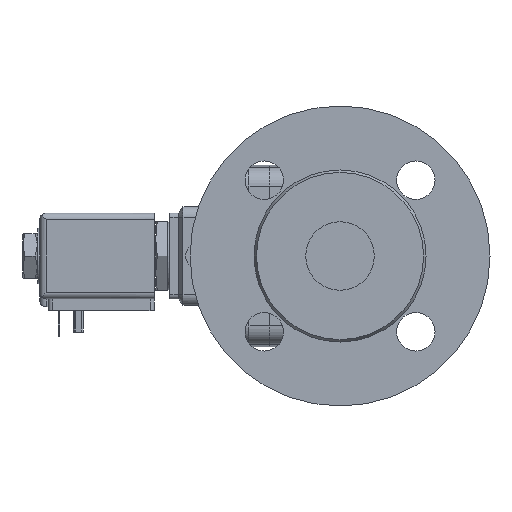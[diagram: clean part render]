
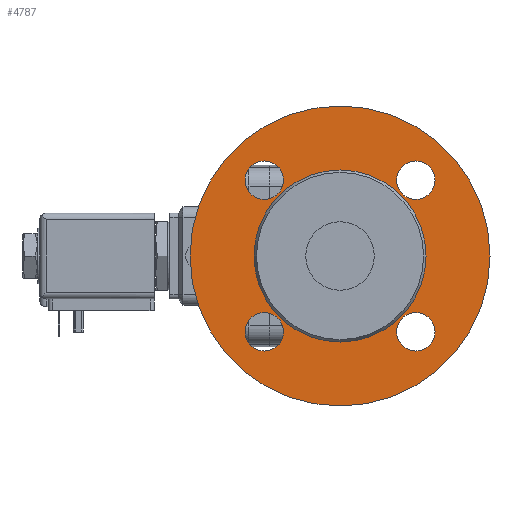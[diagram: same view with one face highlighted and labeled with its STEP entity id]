
A CAD part, left-side view. The second image highlights one B-rep face of the part: STEP entity #4787.
In plain terms, the highlighted planar face has unit normal (-1, 0, 0).
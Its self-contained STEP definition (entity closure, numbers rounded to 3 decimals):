
#1038=PLANE('',#5688);
#1223=CIRCLE('',#5686,40.155);
#1225=CIRCLE('',#5689,70.);
#1226=CIRCLE('',#5690,9.);
#1227=CIRCLE('',#5691,9.);
#1228=CIRCLE('',#5692,9.);
#1229=CIRCLE('',#5693,9.);
#1743=ORIENTED_EDGE('',*,*,#2947,.T.);
#1744=ORIENTED_EDGE('',*,*,#2948,.T.);
#1745=ORIENTED_EDGE('',*,*,#2949,.T.);
#1746=ORIENTED_EDGE('',*,*,#2950,.T.);
#1747=ORIENTED_EDGE('',*,*,#2951,.T.);
#1748=ORIENTED_EDGE('',*,*,#2945,.F.);
#2945=EDGE_CURVE('',#3579,#3579,#1223,.T.);
#2947=EDGE_CURVE('',#3581,#3581,#1225,.T.);
#2948=EDGE_CURVE('',#3582,#3582,#1226,.F.);
#2949=EDGE_CURVE('',#3583,#3583,#1227,.F.);
#2950=EDGE_CURVE('',#3584,#3584,#1228,.F.);
#2951=EDGE_CURVE('',#3585,#3585,#1229,.F.);
#3579=VERTEX_POINT('',#8157);
#3581=VERTEX_POINT('',#8162);
#3582=VERTEX_POINT('',#8164);
#3583=VERTEX_POINT('',#8166);
#3584=VERTEX_POINT('',#8168);
#3585=VERTEX_POINT('',#8170);
#4059=EDGE_LOOP('',(#1743));
#4060=EDGE_LOOP('',(#1744));
#4061=EDGE_LOOP('',(#1745));
#4062=EDGE_LOOP('',(#1746));
#4063=EDGE_LOOP('',(#1747));
#4064=EDGE_LOOP('',(#1748));
#4421=FACE_BOUND('',#4059,.T.);
#4422=FACE_BOUND('',#4060,.T.);
#4423=FACE_BOUND('',#4061,.T.);
#4424=FACE_BOUND('',#4062,.T.);
#4425=FACE_BOUND('',#4063,.T.);
#4426=FACE_BOUND('',#4064,.T.);
#4787=ADVANCED_FACE('',(#4421,#4422,#4423,#4424,#4425,#4426),#1038,.T.);
#5686=AXIS2_PLACEMENT_3D('',#8156,#6456,#6457);
#5688=AXIS2_PLACEMENT_3D('',#8160,#6460,#6461);
#5689=AXIS2_PLACEMENT_3D('',#8161,#6462,#6463);
#5690=AXIS2_PLACEMENT_3D('',#8163,#6464,#6465);
#5691=AXIS2_PLACEMENT_3D('',#8165,#6466,#6467);
#5692=AXIS2_PLACEMENT_3D('',#8167,#6468,#6469);
#5693=AXIS2_PLACEMENT_3D('',#8169,#6470,#6471);
#6456=DIRECTION('',(-1.,0.,0.));
#6457=DIRECTION('',(0.,0.,1.));
#6460=DIRECTION('',(-1.,0.,0.));
#6461=DIRECTION('',(0.,0.,1.));
#6462=DIRECTION('',(-1.,0.,0.));
#6463=DIRECTION('',(0.,0.,1.));
#6464=DIRECTION('',(-1.,0.,0.));
#6465=DIRECTION('',(0.,0.,1.));
#6466=DIRECTION('',(-1.,0.,0.));
#6467=DIRECTION('',(0.,0.,1.));
#6468=DIRECTION('',(-1.,0.,0.));
#6469=DIRECTION('',(0.,0.,1.));
#6470=DIRECTION('',(-1.,0.,0.));
#6471=DIRECTION('',(0.,0.,1.));
#8156=CARTESIAN_POINT('',(-88.,0.,0.));
#8157=CARTESIAN_POINT('',(-88.,0.,40.155));
#8160=CARTESIAN_POINT('',(-88.,-40.155,0.));
#8161=CARTESIAN_POINT('',(-88.,0.,0.));
#8162=CARTESIAN_POINT('',(-88.,0.,70.));
#8163=CARTESIAN_POINT('',(-88.,35.355,35.355));
#8164=CARTESIAN_POINT('',(-88.,35.355,44.355));
#8165=CARTESIAN_POINT('',(-88.,35.355,-35.355));
#8166=CARTESIAN_POINT('',(-88.,35.355,-26.355));
#8167=CARTESIAN_POINT('',(-88.,-35.355,-35.355));
#8168=CARTESIAN_POINT('',(-88.,-35.355,-26.355));
#8169=CARTESIAN_POINT('',(-88.,-35.355,35.355));
#8170=CARTESIAN_POINT('',(-88.,-35.355,44.355));
